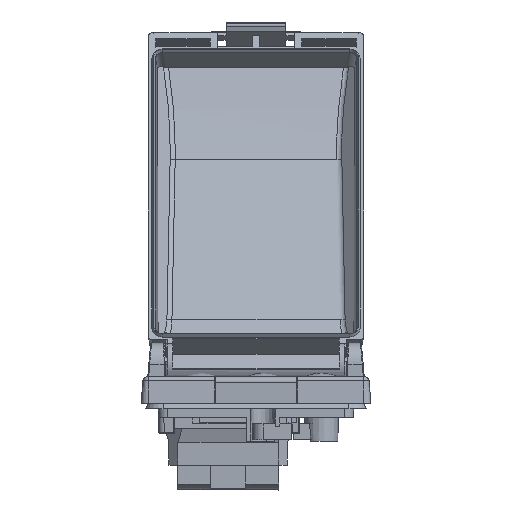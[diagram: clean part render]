
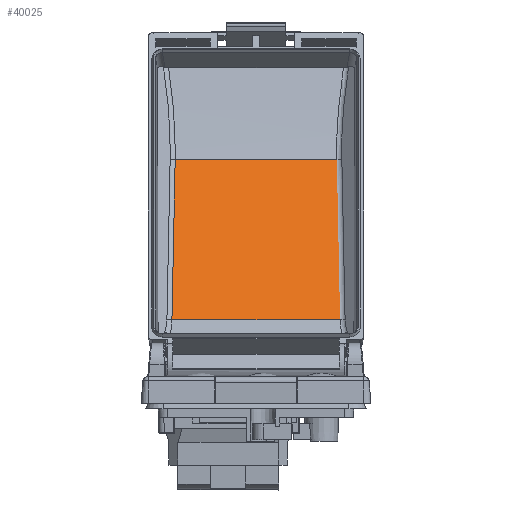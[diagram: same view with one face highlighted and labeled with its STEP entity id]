
A CAD part, left-side view. The second image highlights one B-rep face of the part: STEP entity #40025.
In plain terms, the highlighted planar face has unit normal (-0.865, 0, 0.502).
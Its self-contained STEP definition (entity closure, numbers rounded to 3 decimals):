
#1234 = CARTESIAN_POINT ( 'NONE',  ( 97.905, 189.435, 61.35 ) ) ;
#3212 = EDGE_CURVE ( 'NONE', #24918, #31917, #47381, .T. ) ;
#3521 = CARTESIAN_POINT ( 'NONE',  ( 71.612, 196.074, 16.093 ) ) ;
#6333 = CARTESIAN_POINT ( 'NONE',  ( 71.612, 196.074, 16.093 ) ) ;
#6762 = CARTESIAN_POINT ( 'NONE',  ( 80.377, 196.379, 31.179 ) ) ;
#8104 = EDGE_LOOP ( 'NONE', ( #50113, #8836, #21343, #25612 ) ) ;
#8600 = DIRECTION ( 'NONE',  ( 0., 1., 0. ) ) ;
#8836 = ORIENTED_EDGE ( 'NONE', *, *, #51612, .F. ) ;
#15302 = LINE ( 'NONE', #15648, #47852 ) ;
#15648 = CARTESIAN_POINT ( 'NONE',  ( 71.612, 243.595, 16.093 ) ) ;
#18163 = VERTEX_POINT ( 'NONE', #6333 ) ;
#18652 = CARTESIAN_POINT ( 'NONE',  ( 97.905, 242.682, 61.35 ) ) ;
#19330 = CARTESIAN_POINT ( 'NONE',  ( 97.905, 196.988, 61.35 ) ) ;
#20425 = B_SPLINE_CURVE_WITH_KNOTS ( 'NONE', 3,
 ( #3521, #6762, #44197, #19330 ),
 .UNSPECIFIED., .F., .F.,
 ( 4, 4 ),
 ( 0., 1. ),
 .UNSPECIFIED. ) ;
#21343 = ORIENTED_EDGE ( 'NONE', *, *, #53574, .T. ) ;
#21612 = DIRECTION ( 'NONE',  ( 0.502, -0.017, 0.865 ) ) ;
#24130 = LINE ( 'NONE', #27635, #47551 ) ;
#24918 = VERTEX_POINT ( 'NONE', #42063 ) ;
#25612 = ORIENTED_EDGE ( 'NONE', *, *, #3212, .T. ) ;
#27635 = CARTESIAN_POINT ( 'NONE',  ( 71.612, 189.435, 16.093 ) ) ;
#28718 = FACE_OUTER_BOUND ( 'NONE', #8104, .T. ) ;
#28723 = VERTEX_POINT ( 'NONE', #37533 ) ;
#31917 = VERTEX_POINT ( 'NONE', #18652 ) ;
#37533 = CARTESIAN_POINT ( 'NONE',  ( 71.612, 243.595, 16.093 ) ) ;
#39220 = DIRECTION ( 'NONE',  ( 0.865, 0., -0.502 ) ) ;
#40025 = ADVANCED_FACE ( 'NONE', ( #28718 ), #47583, .F. ) ;
#42063 = CARTESIAN_POINT ( 'NONE',  ( 97.905, 196.988, 61.35 ) ) ;
#44197 = CARTESIAN_POINT ( 'NONE',  ( 89.141, 196.683, 46.264 ) ) ;
#46211 = CARTESIAN_POINT ( 'NONE',  ( 97.905, 189.435, 61.35 ) ) ;
#46286 = EDGE_CURVE ( 'NONE', #28723, #31917, #15302, .T. ) ;
#47381 = LINE ( 'NONE', #46211, #48012 ) ;
#47551 = VECTOR ( 'NONE', #53386, 1000. ) ;
#47583 = PLANE ( 'NONE',  #50138 ) ;
#47852 = VECTOR ( 'NONE', #21612, 1000. ) ;
#48012 = VECTOR ( 'NONE', #8600, 1000. ) ;
#50113 = ORIENTED_EDGE ( 'NONE', *, *, #46286, .F. ) ;
#50138 = AXIS2_PLACEMENT_3D ( 'NONE', #1234, #39220, #51744 ) ;
#51612 = EDGE_CURVE ( 'NONE', #18163, #28723, #24130, .T. ) ;
#51744 = DIRECTION ( 'NONE',  ( -0.502, 0., -0.865 ) ) ;
#53386 = DIRECTION ( 'NONE',  ( 0., 1., 0. ) ) ;
#53574 = EDGE_CURVE ( 'NONE', #18163, #24918, #20425, .T. ) ;
